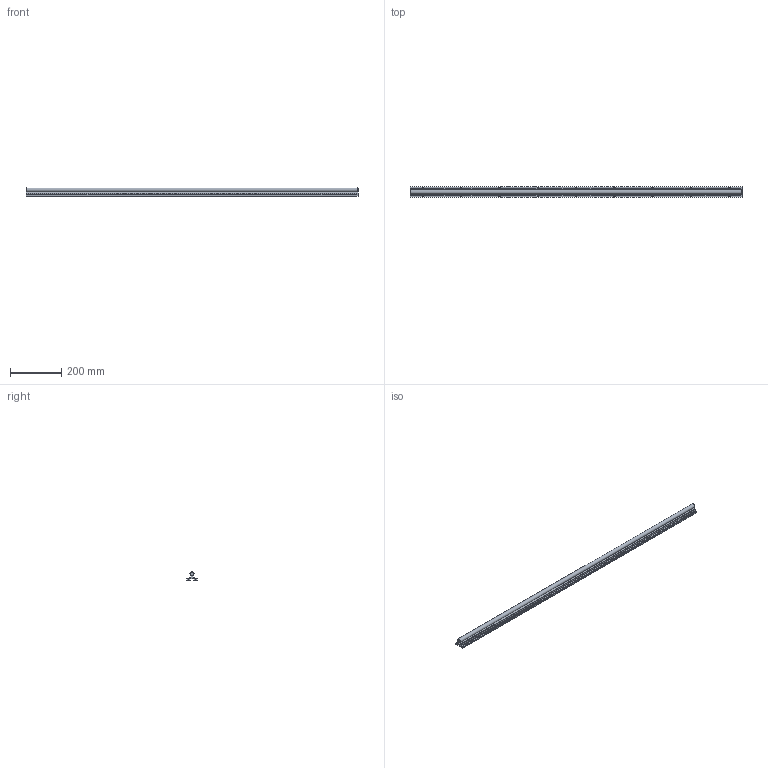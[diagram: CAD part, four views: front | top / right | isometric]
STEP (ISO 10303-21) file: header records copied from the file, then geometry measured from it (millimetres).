
FILE_DESCRIPTION(/* description */ (''),/* implementation_level */ '2;1');
FILE_NAME(/* name */ 'C:\Users\David\Desktop\stepFiles\Profilfuehrung\LFS16x1300.stp',/* time_stamp */ '2018-06-24T15:18:18+02:00',/* author */ ('Buskamp'),/* organization */ (''),/* preprocessor_version */ 'ST-DEVELOPER v17',/* originating_system */ 'Autodesk Inventor 2019',/* authorisation */ '');
FILE_SCHEMA (('AUTOMOTIVE_DESIGN { 1 0 10303 214 3 1 1 }'));
Length unit declared in the file: millimetre
Products named in the file (1): Linearführung D16xvariabel
Bounding box: 1300 x 40 x 32.97 mm (x, y, z)
Volume: 663816.7 mm3; surface area: 204236.4 mm2
Topology: 1 solids, 1 shells, 116 faces, 382 edges, 250 vertices
Faces by surface type: plane 79, cylinder 19, cone 18
Full cylindrical faces by diameter (mm): 5.5 x18
Entity records: 4295 total; most frequent: CARTESIAN_POINT 821, ORIENTED_EDGE 764, DIRECTION 726, EDGE_CURVE 382, AXIS2_PLACEMENT_3D 263, VERTEX_POINT 250, LINE 200, VECTOR 200
